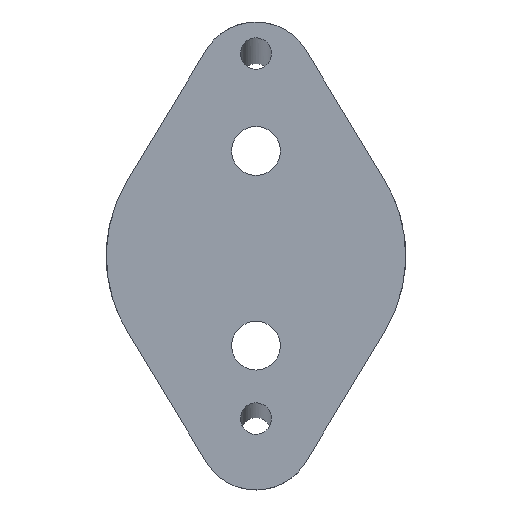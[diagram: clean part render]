
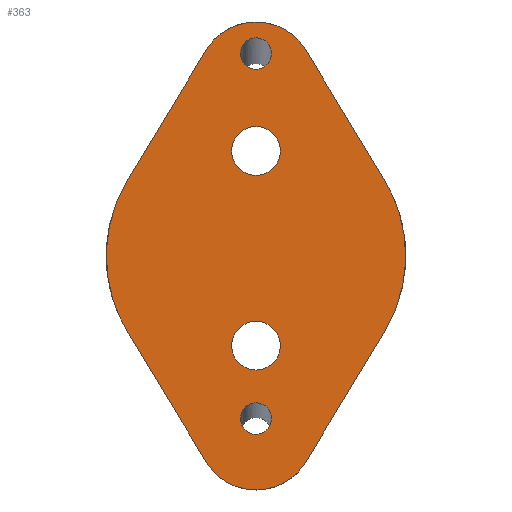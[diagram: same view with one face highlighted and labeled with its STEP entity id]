
A CAD part, front view. The second image highlights one B-rep face of the part: STEP entity #363.
In plain terms, the highlighted planar face has unit normal (0, -1, 0).
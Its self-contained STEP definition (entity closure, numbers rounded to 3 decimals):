
#23=FACE_BOUND('',#76,.T.);
#24=FACE_BOUND('',#77,.T.);
#25=FACE_BOUND('',#78,.T.);
#26=FACE_BOUND('',#79,.T.);
#37=PLANE('',#425);
#55=FACE_OUTER_BOUND('',#75,.T.);
#75=EDGE_LOOP('',(#313,#314,#315,#316,#317,#318,#319,#320));
#76=EDGE_LOOP('',(#321));
#77=EDGE_LOOP('',(#322));
#78=EDGE_LOOP('',(#323,#324));
#79=EDGE_LOOP('',(#325,#326));
#85=ELLIPSE('',#386,7.725,7.608);
#86=ELLIPSE('',#389,20.,19.696);
#87=ELLIPSE('',#392,7.725,7.608);
#88=ELLIPSE('',#395,20.,19.696);
#93=ELLIPSE('',#418,2.099,2.067);
#94=ELLIPSE('',#419,2.099,2.067);
#95=ELLIPSE('',#423,2.099,2.067);
#96=ELLIPSE('',#424,2.099,2.067);
#100=LINE('',#558,#122);
#104=LINE('',#575,#126);
#109=LINE('',#597,#131);
#112=LINE('',#611,#134);
#122=VECTOR('',#438,10.);
#126=VECTOR('',#448,10.);
#131=VECTOR('',#459,10.);
#134=VECTOR('',#468,10.);
#148=CIRCLE('',#405,3.25);
#152=CIRCLE('',#414,3.25);
#159=VERTEX_POINT('',#549);
#160=VERTEX_POINT('',#551);
#162=VERTEX_POINT('',#557);
#164=VERTEX_POINT('',#568);
#166=VERTEX_POINT('',#574);
#168=VERTEX_POINT('',#589);
#170=VERTEX_POINT('',#595);
#172=VERTEX_POINT('',#606);
#178=VERTEX_POINT('',#626);
#184=VERTEX_POINT('',#643);
#187=VERTEX_POINT('',#651);
#188=VERTEX_POINT('',#653);
#191=VERTEX_POINT('',#661);
#192=VERTEX_POINT('',#663);
#195=EDGE_CURVE('',#160,#159,#85,.T.);
#198=EDGE_CURVE('',#162,#160,#100,.T.);
#201=EDGE_CURVE('',#164,#162,#86,.T.);
#204=EDGE_CURVE('',#166,#164,#104,.T.);
#207=EDGE_CURVE('',#168,#166,#87,.T.);
#211=EDGE_CURVE('',#159,#170,#109,.T.);
#214=EDGE_CURVE('',#170,#172,#88,.T.);
#216=EDGE_CURVE('',#172,#168,#112,.T.);
#224=EDGE_CURVE('',#178,#178,#148,.T.);
#232=EDGE_CURVE('',#184,#184,#152,.T.);
#236=EDGE_CURVE('',#188,#187,#93,.T.);
#237=EDGE_CURVE('',#187,#188,#94,.T.);
#241=EDGE_CURVE('',#192,#191,#95,.T.);
#242=EDGE_CURVE('',#191,#192,#96,.T.);
#313=ORIENTED_EDGE('',*,*,#207,.T.);
#314=ORIENTED_EDGE('',*,*,#204,.T.);
#315=ORIENTED_EDGE('',*,*,#201,.T.);
#316=ORIENTED_EDGE('',*,*,#198,.T.);
#317=ORIENTED_EDGE('',*,*,#195,.T.);
#318=ORIENTED_EDGE('',*,*,#211,.T.);
#319=ORIENTED_EDGE('',*,*,#214,.T.);
#320=ORIENTED_EDGE('',*,*,#216,.T.);
#321=ORIENTED_EDGE('',*,*,#224,.T.);
#322=ORIENTED_EDGE('',*,*,#232,.T.);
#323=ORIENTED_EDGE('',*,*,#236,.T.);
#324=ORIENTED_EDGE('',*,*,#237,.T.);
#325=ORIENTED_EDGE('',*,*,#241,.T.);
#326=ORIENTED_EDGE('',*,*,#242,.T.);
#363=ADVANCED_FACE('',(#55,#23,#24,#25,#26),#37,.T.);
#386=AXIS2_PLACEMENT_3D('',#552,#432,#433);
#389=AXIS2_PLACEMENT_3D('',#569,#442,#443);
#392=AXIS2_PLACEMENT_3D('',#590,#452,#453);
#395=AXIS2_PLACEMENT_3D('',#608,#463,#464);
#405=AXIS2_PLACEMENT_3D('',#628,#487,#488);
#414=AXIS2_PLACEMENT_3D('',#645,#507,#508);
#418=AXIS2_PLACEMENT_3D('',#654,#516,#517);
#419=AXIS2_PLACEMENT_3D('',#655,#518,#519);
#423=AXIS2_PLACEMENT_3D('',#664,#527,#528);
#424=AXIS2_PLACEMENT_3D('',#665,#529,#530);
#425=AXIS2_PLACEMENT_3D('',#666,#531,#532);
#432=DIRECTION('center_axis',(0.,-1.,0.));
#433=DIRECTION('ref_axis',(1.,0.,0.));
#438=DIRECTION('',(0.517,0.,-0.856));
#442=DIRECTION('center_axis',(0.,-1.,0.));
#443=DIRECTION('ref_axis',(-1.,0.,0.));
#448=DIRECTION('',(-0.517,0.,-0.856));
#452=DIRECTION('center_axis',(0.,-1.,0.));
#453=DIRECTION('ref_axis',(-1.,0.,0.));
#459=DIRECTION('',(0.517,0.,0.856));
#463=DIRECTION('center_axis',(0.,-1.,0.));
#464=DIRECTION('ref_axis',(1.,0.,0.));
#468=DIRECTION('',(-0.517,0.,0.856));
#487=DIRECTION('center_axis',(0.,1.,0.));
#488=DIRECTION('ref_axis',(1.,0.,0.));
#507=DIRECTION('center_axis',(0.,1.,0.));
#508=DIRECTION('ref_axis',(1.,0.,0.));
#516=DIRECTION('center_axis',(0.,1.,0.));
#517=DIRECTION('ref_axis',(0.,0.,-1.));
#518=DIRECTION('center_axis',(0.,1.,0.));
#519=DIRECTION('ref_axis',(0.,0.,-1.));
#527=DIRECTION('center_axis',(0.,1.,0.));
#528=DIRECTION('ref_axis',(0.,0.,-1.));
#529=DIRECTION('center_axis',(0.,1.,0.));
#530=DIRECTION('ref_axis',(0.,0.,-1.));
#531=DIRECTION('center_axis',(0.,-1.,0.));
#532=DIRECTION('ref_axis',(0.,0.,-1.));
#549=CARTESIAN_POINT('',(27.638,0.,-27.55));
#551=CARTESIAN_POINT('',(14.362,0.,-27.55));
#552=CARTESIAN_POINT('Origin',(21.,0.,-23.659));
#557=CARTESIAN_POINT('',(3.814,0.,-10.097));
#558=CARTESIAN_POINT('',(6.343,0.,-14.282));
#568=CARTESIAN_POINT('',(3.814,0.,10.049));
#569=CARTESIAN_POINT('Origin',(21.,0.,-0.024));
#574=CARTESIAN_POINT('',(14.362,0.,27.502));
#575=CARTESIAN_POINT('',(1.079,0.,5.525));
#589=CARTESIAN_POINT('',(27.638,0.,27.502));
#590=CARTESIAN_POINT('Origin',(21.,0.,23.611));
#595=CARTESIAN_POINT('',(38.186,0.,-10.097));
#597=CARTESIAN_POINT('',(35.313,0.,-14.851));
#606=CARTESIAN_POINT('',(38.186,0.,10.049));
#608=CARTESIAN_POINT('Origin',(21.,0.,-0.024));
#611=CARTESIAN_POINT('',(30.029,0.,23.547));
#626=CARTESIAN_POINT('',(17.75,0.,14.));
#628=CARTESIAN_POINT('Origin',(21.,0.,14.));
#643=CARTESIAN_POINT('',(17.75,0.,-12.));
#645=CARTESIAN_POINT('Origin',(21.,0.,-12.));
#651=CARTESIAN_POINT('',(18.933,0.,27.009));
#653=CARTESIAN_POINT('',(21.,0.,29.108));
#654=CARTESIAN_POINT('Origin',(21.,0.,27.009));
#655=CARTESIAN_POINT('Origin',(21.,0.,27.009));
#661=CARTESIAN_POINT('',(18.933,0.,-21.732));
#663=CARTESIAN_POINT('',(21.,0.,-19.633));
#664=CARTESIAN_POINT('Origin',(21.,0.,-21.732));
#665=CARTESIAN_POINT('Origin',(21.,0.,-21.732));
#666=CARTESIAN_POINT('Origin',(0.,0.,0.));
